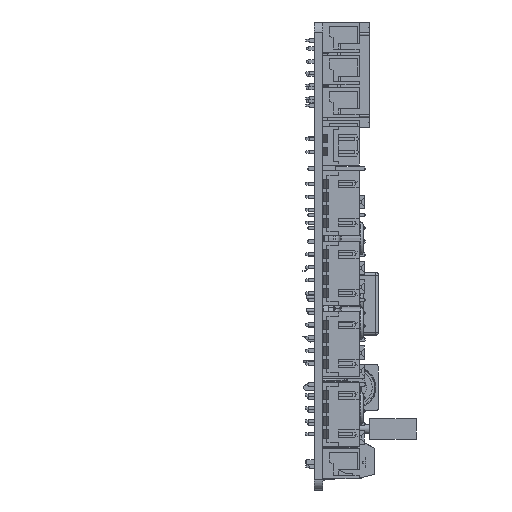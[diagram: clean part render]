
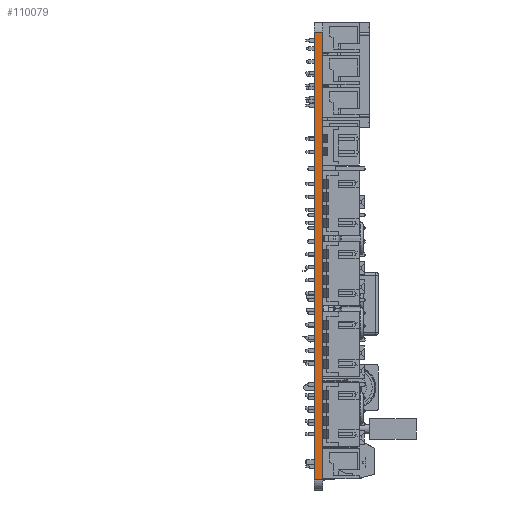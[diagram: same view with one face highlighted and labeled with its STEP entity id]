
A CAD part, left-side view. The second image highlights one B-rep face of the part: STEP entity #110079.
In plain terms, the highlighted planar face has unit normal (-1, 0, 0).
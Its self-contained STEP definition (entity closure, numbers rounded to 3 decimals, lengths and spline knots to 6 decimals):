
#6764=ORIENTED_EDGE('',*,*,#39069,.F.);
#6765=ORIENTED_EDGE('',*,*,#39070,.T.);
#6766=ORIENTED_EDGE('',*,*,#39067,.F.);
#6767=ORIENTED_EDGE('',*,*,#38871,.F.);
#38871=EDGE_CURVE('',#55081,#55082,#65531,.T.);
#39067=EDGE_CURVE('',#55082,#55240,#65691,.T.);
#39069=EDGE_CURVE('',#55241,#55081,#65692,.T.);
#39070=EDGE_CURVE('',#55241,#55240,#65693,.T.);
#55081=VERTEX_POINT('',#163071);
#55082=VERTEX_POINT('',#163073);
#55240=VERTEX_POINT('',#163487);
#55241=VERTEX_POINT('',#163491);
#65531=LINE('',#163072,#78846);
#65691=LINE('',#163486,#79006);
#65692=LINE('',#163490,#79007);
#65693=LINE('',#163492,#79008);
#78846=VECTOR('',#133495,1.);
#79006=VECTOR('',#133815,1.);
#79007=VECTOR('',#133820,1.);
#79008=VECTOR('',#133821,1.);
#91455=EDGE_LOOP('',(#6764,#6765,#6766,#6767));
#98325=FACE_BOUND('',#91455,.T.);
#105067=PLANE('',#124929);
#110079=ADVANCED_FACE('',(#98325),#105067,.T.);
#124929=AXIS2_PLACEMENT_3D('',#163489,#133818,#133819);
#133495=DIRECTION('',(0.,0.,-1.));
#133815=DIRECTION('',(0.,1.,0.));
#133818=DIRECTION('',(-1.,0.,0.));
#133819=DIRECTION('',(0.,0.,-1.));
#133820=DIRECTION('',(0.,-1.,0.));
#133821=DIRECTION('',(0.,0.,-1.));
#163071=CARTESIAN_POINT('',(0.23022,-0.043369,0.039393));
#163072=CARTESIAN_POINT('',(0.23022,-0.043369,0.039393));
#163073=CARTESIAN_POINT('',(0.23022,-0.043369,-0.046607));
#163486=CARTESIAN_POINT('',(0.23022,-0.043369,-0.046607));
#163487=CARTESIAN_POINT('',(0.23022,-0.041769,-0.046607));
#163489=CARTESIAN_POINT('',(0.23022,-0.041769,0.041393));
#163490=CARTESIAN_POINT('',(0.23022,-0.041769,0.039393));
#163491=CARTESIAN_POINT('',(0.23022,-0.041769,0.039393));
#163492=CARTESIAN_POINT('',(0.23022,-0.041769,0.039393));
